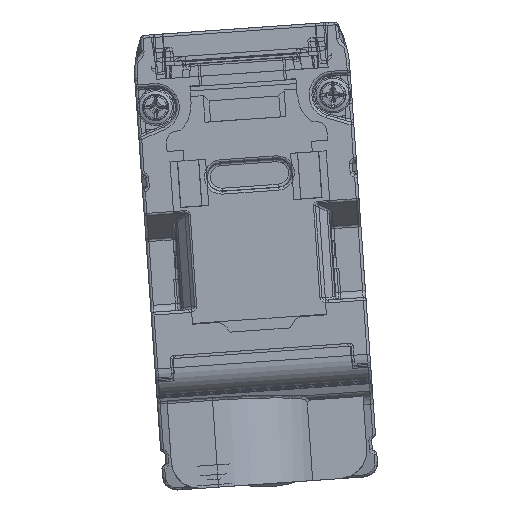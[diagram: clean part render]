
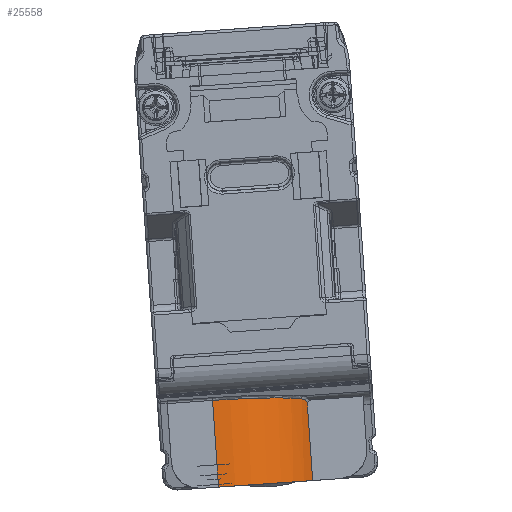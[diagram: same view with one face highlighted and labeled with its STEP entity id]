
A CAD part, front view. The second image highlights one B-rep face of the part: STEP entity #25558.
In plain terms, the highlighted cylindrical face has radius 7.5 mm (diameter 15 mm), a partial arc.
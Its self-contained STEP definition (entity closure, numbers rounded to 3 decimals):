
#1402=ELLIPSE('',#79457,7.53,7.5);
#6089=B_SPLINE_CURVE_WITH_KNOTS('',3,(#128578,#128579,#128580,#128581,#128582,
#128583,#128584),.UNSPECIFIED.,.F.,.F.,(4,3,4),(0.,0.485,1.),
 .UNSPECIFIED.);
#7587=CYLINDRICAL_SURFACE('',#79459,7.5);
#10179=FACE_OUTER_BOUND('',#32230,.T.);
#14732=LINE('',#128575,#20420);
#14733=LINE('',#128588,#20421);
#20420=VECTOR('',#91935,1.);
#20421=VECTOR('',#91938,1.);
#25558=ADVANCED_FACE('',(#10179),#7587,.T.);
#32230=EDGE_LOOP('',(#42988,#42989,#42990,#42991,#42992));
#42988=ORIENTED_EDGE('',*,*,#66258,.T.);
#42989=ORIENTED_EDGE('',*,*,#66259,.T.);
#42990=ORIENTED_EDGE('',*,*,#66260,.T.);
#42991=ORIENTED_EDGE('',*,*,#66261,.T.);
#42992=ORIENTED_EDGE('',*,*,#66262,.F.);
#58164=VERTEX_POINT('',#128576);
#58165=VERTEX_POINT('',#128577);
#58166=VERTEX_POINT('',#128585);
#58167=VERTEX_POINT('',#128587);
#58168=VERTEX_POINT('',#128589);
#66258=EDGE_CURVE('',#58164,#58165,#14732,.T.);
#66259=EDGE_CURVE('',#58165,#58166,#6089,.T.);
#66260=EDGE_CURVE('',#58166,#58167,#1402,.T.);
#66261=EDGE_CURVE('',#58167,#58168,#14733,.T.);
#66262=EDGE_CURVE('',#58164,#58168,#73862,.T.);
#73862=CIRCLE('',#79458,7.5);
#79457=AXIS2_PLACEMENT_3D('',#128586,#91936,#91937);
#79458=AXIS2_PLACEMENT_3D('',#128590,#91939,#91940);
#79459=AXIS2_PLACEMENT_3D('',#128591,#91941,#91942);
#91935=DIRECTION('',(-0.07,0.,0.998));
#91936=DIRECTION('',(0.069,-0.089,-0.994));
#91937=DIRECTION('',(0.006,0.996,-0.089));
#91938=DIRECTION('',(0.07,0.,-0.998));
#91939=DIRECTION('',(0.07,0.,-0.998));
#91940=DIRECTION('',(0.998,0.,0.07));
#91941=DIRECTION('',(0.07,0.,-0.998));
#91942=DIRECTION('',(0.,-1.,0.));
#128575=CARTESIAN_POINT('',(-40.701,-710.597,14.888));
#128576=CARTESIAN_POINT('',(-40.701,-710.597,14.888));
#128577=CARTESIAN_POINT('',(-41.088,-710.597,20.435));
#128578=CARTESIAN_POINT('',(-41.088,-710.597,20.435));
#128579=CARTESIAN_POINT('',(-41.139,-710.686,20.528));
#128580=CARTESIAN_POINT('',(-41.198,-710.793,20.603));
#128581=CARTESIAN_POINT('',(-41.263,-710.905,20.654));
#128582=CARTESIAN_POINT('',(-41.332,-711.024,20.708));
#128583=CARTESIAN_POINT('',(-41.408,-711.152,20.738));
#128584=CARTESIAN_POINT('',(-41.487,-711.278,20.743));
#128585=CARTESIAN_POINT('',(-41.487,-711.278,20.743));
#128586=CARTESIAN_POINT('',(-47.816,-707.318,19.944));
#128587=CARTESIAN_POINT('',(-47.863,-714.818,20.616));
#128588=CARTESIAN_POINT('',(-47.667,-714.818,17.815));
#128589=CARTESIAN_POINT('',(-47.43,-714.818,14.418));
#128590=CARTESIAN_POINT('',(-47.43,-707.318,14.418));
#128591=CARTESIAN_POINT('',(-52.434,-707.318,85.982));
